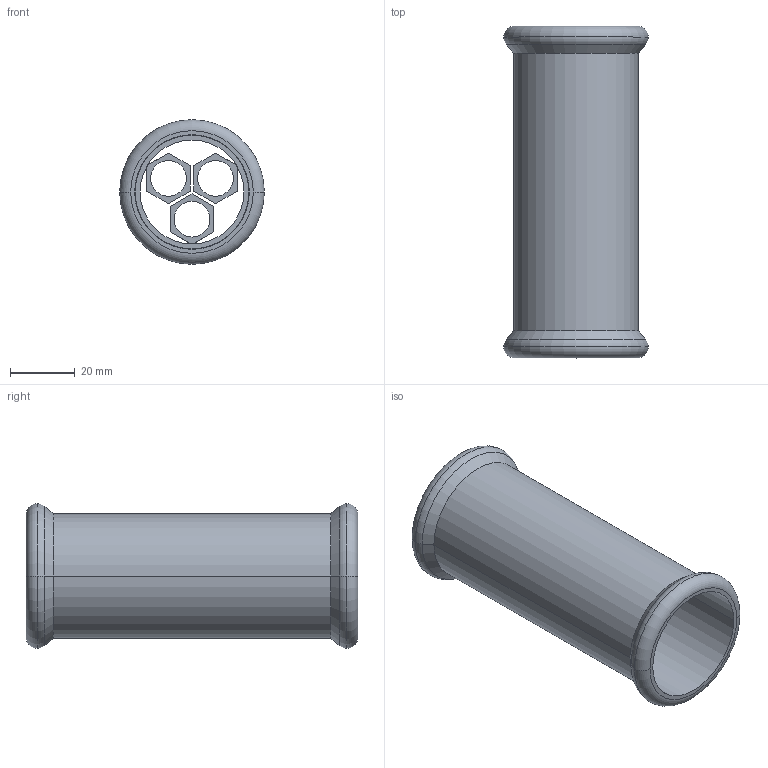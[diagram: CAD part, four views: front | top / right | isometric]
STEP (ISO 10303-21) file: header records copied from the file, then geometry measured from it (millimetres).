
FILE_DESCRIPTION(('OneSpaceDesigner STEP Export'),'2;1');
FILE_NAME('R2703 35x35.stp','2010-06-09T 9:08:21',(''),(''),'OneSpace Designer STEP processor for AP214 (Solid Model)','OneSpace Modeling 15.00A 14-Mar-2007 (C) CoCreate Software GmbH','');
FILE_SCHEMA(('AUTOMOTIVE_DESIGN { 1 0 10303 214 1 1 1 1 }'));
Length unit declared in the file: millimetre
Products named in the file (2): R2703_35x35
Assembly tree (1 placements, depth 2):
  R2703_35x35
    R2703_35x35
Bounding box: 44.55 x 102.2 x 44.55 mm (x, y, z)
Volume: 31919.5 mm3; surface area: 26901.7 mm2
Topology: 1 solids, 1 shells, 102 faces, 258 edges, 168 vertices
Faces by surface type: plane 60, cylinder 30, torus 8, cone 4
Entity records: 2771 total; most frequent: ORIENTED_EDGE 516, CARTESIAN_POINT 454, DIRECTION 406, EDGE_CURVE 258, VERTEX_POINT 168, VECTOR 166, LINE 166, EDGE_LOOP 126
